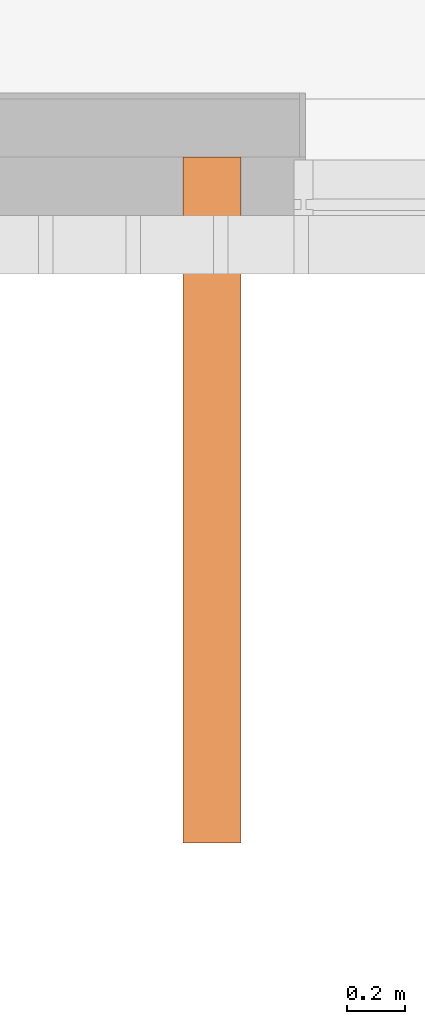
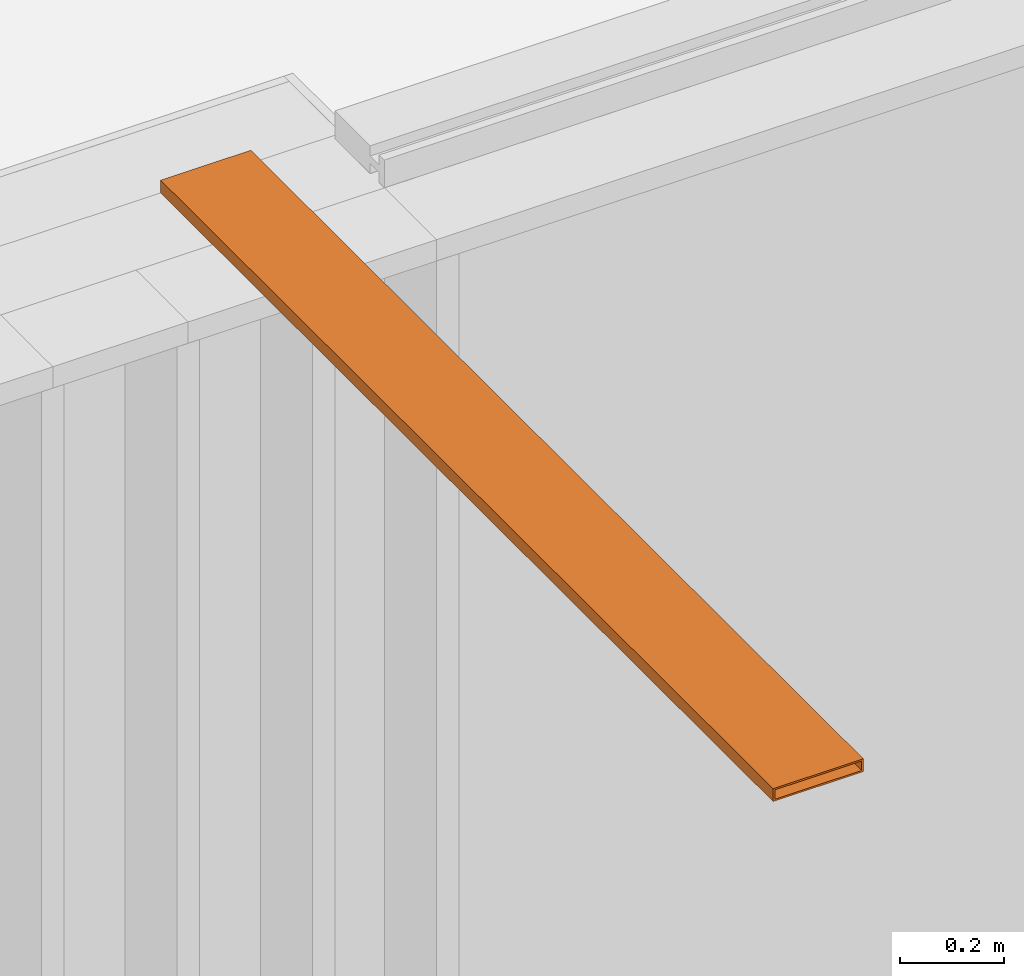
# One storey, part 238 of 240: 1 proxy.
"""IFC2X3 building model written with IfcOpenShell, lengths in centimetres."""

from ifc_helpers import new_model, entity, si_unit, converted_unit, derived_unit, direction, frame, origin, place, context, subcontext, project, spatial, polyline, outline, extrude, source, transform, mapped, material, type_object, type_shapes, element, save


model = new_model("IFC2X3")

# Units and contexts
model_context = context("Model", 3, precision=0.001, world=origin(), true_north=direction((6.12303176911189e-17, 1.0)))
body_context = subcontext(model_context, "Body", "Model", "MODEL_VIEW")
ifc_project = project(units=[si_unit("LENGTHUNIT", "METRE", prefix="CENTI"), si_unit("AREAUNIT", "SQUARE_METRE"), si_unit("VOLUMEUNIT", "CUBIC_METRE"), converted_unit("PLANEANGLEUNIT", "DEGREE", entity("IfcRatioMeasure", 0.0174532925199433), si_unit("PLANEANGLEUNIT", "RADIAN"), dimensions=[0, 0, 0, 0, 0, 0, 0]), si_unit("MASSUNIT", "GRAM", prefix="KILO"), derived_unit("MASSDENSITYUNIT", [(si_unit("MASSUNIT", "GRAM", prefix="KILO"), 1), (si_unit("LENGTHUNIT", "METRE"), -3)]), si_unit("TIMEUNIT", "SECOND"), si_unit("FREQUENCYUNIT", "HERTZ"), si_unit("THERMODYNAMICTEMPERATUREUNIT", "DEGREE_CELSIUS"), derived_unit("THERMALTRANSMITTANCEUNIT", [(si_unit("MASSUNIT", "GRAM", prefix="KILO"), 1), (si_unit("THERMODYNAMICTEMPERATUREUNIT", "KELVIN"), -1), (si_unit("TIMEUNIT", "SECOND"), -3)]), derived_unit("VOLUMETRICFLOWRATEUNIT", [(si_unit("LENGTHUNIT", "METRE"), 3), (si_unit("TIMEUNIT", "SECOND"), -1)]), si_unit("ELECTRICCURRENTUNIT", "AMPERE"), si_unit("ELECTRICVOLTAGEUNIT", "VOLT"), si_unit("POWERUNIT", "WATT"), si_unit("FORCEUNIT", "NEWTON", prefix="KILO"), si_unit("ILLUMINANCEUNIT", "LUX"), si_unit("LUMINOUSFLUXUNIT", "LUMEN"), si_unit("LUMINOUSINTENSITYUNIT", "CANDELA"), derived_unit("USERDEFINED", [(si_unit("MASSUNIT", "GRAM", prefix="KILO"), -1), (si_unit("LENGTHUNIT", "METRE"), -2), (si_unit("TIMEUNIT", "SECOND"), 3), (si_unit("LUMINOUSFLUXUNIT", "LUMEN"), 1)]), derived_unit("LINEARVELOCITYUNIT", [(si_unit("LENGTHUNIT", "METRE"), 1), (si_unit("TIMEUNIT", "SECOND"), -1)]), si_unit("PRESSUREUNIT", "PASCAL"), derived_unit("USERDEFINED", [(si_unit("LENGTHUNIT", "METRE"), -2), (si_unit("MASSUNIT", "GRAM", prefix="KILO"), 1), (si_unit("TIMEUNIT", "SECOND"), -2)])], contexts=[model_context])

# Site, building, storey
site_placement = place(None, frame((-2781.94577612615, 7442.24238424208, 0.0)))
site = spatial("IfcSite", under=ifc_project, at=site_placement, Name="Default", CompositionType="ELEMENT")
building_placement = place(site_placement, origin())
building = spatial("IfcBuilding", under=site, at=building_placement, CompositionType="ELEMENT")
storey_placement = place(building_placement, origin())
storey = spatial("IfcBuildingStorey", under=building, at=storey_placement, Name="N00 - COO", CompositionType="ELEMENT", Elevation=0.0)

# Proxy
ifc_material = material(Name="Alu")
building_element_proxy_type = type_object("IfcBuildingElementProxyType", Name="Tube métal épine", PredefinedType="NOTDEFINED", material=ifc_material)
shared_shape = source(origin(), body_context, "Body", "SweptSolid", [
    extrude(outline(polyline([(-10.0, -1.5), (10.0, -1.5), (10.0, 1.5), (-10.0, 1.5), (-10.0, -1.5)]), holes=[polyline([(-9.6, -1.1), (-9.6, 1.1), (9.6, 1.1), (9.6, -1.1), (-9.6, -1.1)])]), frame((-6.8876172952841, 0.0, 1.5), z_axis=(0.0, 1.0, 0.0), x_axis=(1.0, 0.0, 0.0)), (0.0, 0.0, 1.0), 235.0),
])
type_shapes(building_element_proxy_type, [shared_shape])
proxy_placement = place(building_placement, frame((-10755.9647381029, -5781.50173441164, 313.0)))
element("IfcBuildingElementProxy", 1, at=proxy_placement, inside=storey, type_object=building_element_proxy_type, material=ifc_material, Name="Tube support façade:Tube métal épine", ObjectType="Tube support façade:Tube métal épine", context=body_context, shape_type="MappedRepresentation", body=[
    mapped(shared_shape, transform((0.0, 0.0, 0.0), scale=1.0)),
])

save(model, "model.ifc")
